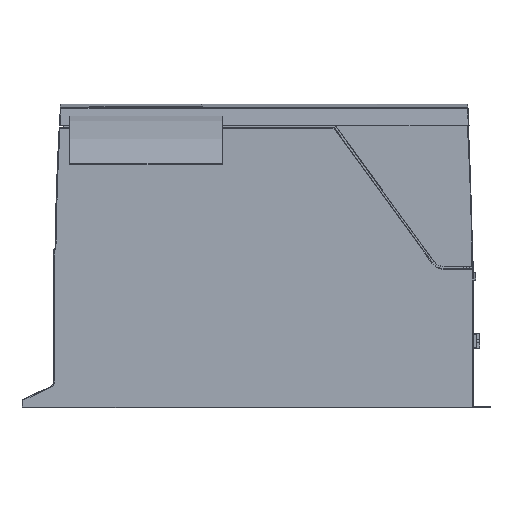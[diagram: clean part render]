
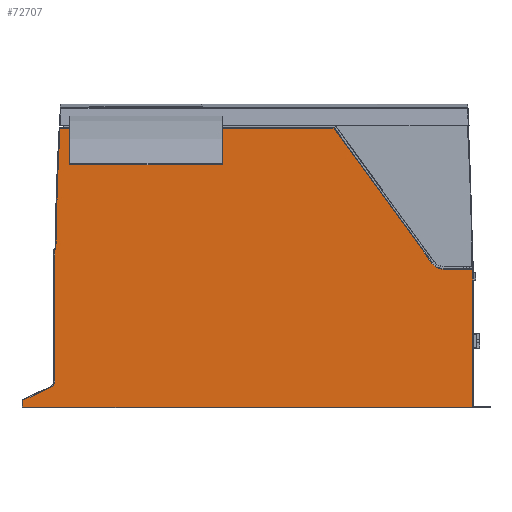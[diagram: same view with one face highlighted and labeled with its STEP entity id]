
A CAD part, left-side view. The second image highlights one B-rep face of the part: STEP entity #72707.
In plain terms, the highlighted planar face has unit normal (-1, 0, 0).
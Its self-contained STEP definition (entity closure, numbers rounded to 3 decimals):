
#4382=DIRECTION('',(0.,1.,0.));
#4383=VECTOR('',#4382,22.329);
#4384=CARTESIAN_POINT('',(-51.,-316.838,
-83.516));
#4385=LINE('',#4384,#4383);
#4427=DIRECTION('',(0.,-0.003,1.));
#4428=VECTOR('',#4427,2.571);
#4429=CARTESIAN_POINT('',(-51.,-316.83,
-86.087));
#4430=LINE('',#4429,#4428);
#4441=DIRECTION('',(0.,0.,-1.));
#4442=VECTOR('',#4441,5.825);
#4443=CARTESIAN_POINT('',(-51.,-316.83,
-86.087));
#4444=LINE('',#4443,#4442);
#4448=DIRECTION('',(0.,-0.906,0.423));
#4449=VECTOR('',#4448,23.98);
#4450=CARTESIAN_POINT('',(-51.,36.843,-186.519));
#4451=LINE('',#4450,#4449);
#4455=CARTESIAN_POINT('',(-51.,17.5,-171.257));
#4456=DIRECTION('',(-1.,0.,0.));
#4457=DIRECTION('',(0.,-0.423,-0.906));
#4458=AXIS2_PLACEMENT_3D('',#4455,#4456,#4457);
#4463=DIRECTION('',(0.,-0.707,0.707));
#4464=VECTOR('',#4463,1.003);
#4465=CARTESIAN_POINT('',(-51.,11.843,-68.272));
#4466=LINE('',#4465,#4464);
#4470=CARTESIAN_POINT('',(-51.,-2188.322,-95.));
#4471=DIRECTION('',(1.,0.,0.));
#4472=DIRECTION('',(0.,1.,0.013));
#4473=AXIS2_PLACEMENT_3D('',#4470,#4471,#4472);
#4478=DIRECTION('',(0.,-0.588,-0.809));
#4479=VECTOR('',#4478,130.906);
#4480=CARTESIAN_POINT('',(-51.,-207.834,27.343));
#4481=LINE('',#4480,#4479);
#4485=CARTESIAN_POINT('',(-51.,-294.5,-71.5));
#4486=DIRECTION('',(-1.,0.,0.));
#4487=DIRECTION('',(0.,0.809,-0.588));
#4488=AXIS2_PLACEMENT_3D('',#4485,#4486,#4487);
#4979=DIRECTION('',(0.,0.,1.));
#4980=VECTOR('',#4979,99.93);
#4981=CARTESIAN_POINT('',(-51.,-316.834,
-191.843));
#4982=LINE('',#4981,#4980);
#5032=DIRECTION('',(0.,-1.,0.));
#5033=VECTOR('',#5032,353.676);
#5034=CARTESIAN_POINT('',(-51.,36.843,-191.843));
#5035=LINE('',#5034,#5033);
#16452=CARTESIAN_POINT('',(-51.,10.841,
-66.869));
#16453=CARTESIAN_POINT('',(-51.,10.842,
-66.957));
#16454=CARTESIAN_POINT('',(-51.,10.866,
-67.126));
#16455=CARTESIAN_POINT('',(-51.,10.968,
-67.367));
#16456=CARTESIAN_POINT('',(-51.,11.072,
-67.501));
#16457=CARTESIAN_POINT('',(-51.,11.133,
-67.563));
#16478=CARTESIAN_POINT('',(-51.,10.841,
-66.869));
#16517=DIRECTION('',(0.,1.,0.));
#16518=VECTOR('',#16517,215.45);
#16519=CARTESIAN_POINT('',(-51.,-207.834,27.343));
#16520=LINE('',#16519,#16518);
#16562=DIRECTION('',(0.,0.,-1.));
#16563=VECTOR('',#16562,102.985);
#16564=CARTESIAN_POINT('',(-51.,11.843,-68.272));
#16565=LINE('',#16564,#16563);
#16663=DIRECTION('',(0.,0.,-1.));
#16664=VECTOR('',#16663,5.324);
#16665=CARTESIAN_POINT('',(-51.,36.843,-186.519));
#16666=LINE('',#16665,#16664);
#64575=VERTEX_POINT('',#16478);
#64576=VERTEX_POINT('',#16457);
#64577=CARTESIAN_POINT('',(-51.,7.615,27.343));
#64578=VERTEX_POINT('',#64577);
#64579=CARTESIAN_POINT('',(-51.,-207.834,27.343));
#64580=VERTEX_POINT('',#64579);
#64585=CARTESIAN_POINT('',(-51.,-284.779,-78.563));
#64586=VERTEX_POINT('',#64585);
#67322=CARTESIAN_POINT('',(-51.,-316.843,-191.843));
#67323=VERTEX_POINT('',#67322);
#67324=CARTESIAN_POINT('',(-51.,36.843,-191.843));
#67325=VERTEX_POINT('',#67324);
#67328=CARTESIAN_POINT('',(-51.,36.843,-186.519));
#67329=VERTEX_POINT('',#67328);
#67344=CARTESIAN_POINT('',(-51.,15.109,-176.384));
#67345=VERTEX_POINT('',#67344);
#67346=CARTESIAN_POINT('',(-51.,11.843,-171.257));
#67347=VERTEX_POINT('',#67346);
#67348=CARTESIAN_POINT('',(-51.,11.843,-68.272));
#67349=VERTEX_POINT('',#67348);
#67350=CARTESIAN_POINT('',(-51.,-316.83,
-86.087));
#67351=CARTESIAN_POINT('',(-51.,-316.827,
-91.913));
#67352=VERTEX_POINT('',#67350);
#67353=VERTEX_POINT('',#67351);
#67354=CARTESIAN_POINT('',(-51.,-294.527,-83.516));
#67355=VERTEX_POINT('',#67354);
#67356=CARTESIAN_POINT('',(-51.,-316.838,
-83.516));
#67357=VERTEX_POINT('',#67356);
#72674=CARTESIAN_POINT('',(-51.,12.5,-191.));
#72675=DIRECTION('',(-1.,0.,0.));
#72676=DIRECTION('',(0.,0.,1.));
#72677=AXIS2_PLACEMENT_3D('',#72674,#72675,#72676);
#72678=PLANE('',#72677);
#72680=ORIENTED_EDGE('',*,*,#72679,.T.);
#72682=ORIENTED_EDGE('',*,*,#72681,.F.);
#72684=ORIENTED_EDGE('',*,*,#72683,.F.);
#72686=ORIENTED_EDGE('',*,*,#72685,.F.);
#72688=ORIENTED_EDGE('',*,*,#72687,.T.);
#72690=ORIENTED_EDGE('',*,*,#72689,.T.);
#72692=ORIENTED_EDGE('',*,*,#72691,.F.);
#72694=ORIENTED_EDGE('',*,*,#72693,.T.);
#72696=ORIENTED_EDGE('',*,*,#72695,.F.);
#72698=ORIENTED_EDGE('',*,*,#72697,.T.);
#72700=ORIENTED_EDGE('',*,*,#72699,.F.);
#72701=ORIENTED_EDGE('',*,*,#72495,.T.);
#72702=ORIENTED_EDGE('',*,*,#72557,.T.);
#72703=ORIENTED_EDGE('',*,*,#72579,.F.);
#72704=ORIENTED_EDGE('',*,*,#72657,.F.);
#72705=EDGE_LOOP('',(#72680,#72682,#72684,#72686,#72688,#72690,#72692,#72694,
#72696,#72698,#72700,#72701,#72702,#72703,#72704));
#72706=FACE_OUTER_BOUND('',#72705,.F.);
#4459=CIRCLE('',#4458,5.657);
#4474=CIRCLE('',#4473,2199.343);
#4489=CIRCLE('',#4488,12.016);
#16458=B_SPLINE_CURVE_WITH_KNOTS('',3,(#16452,#16453,#16454,#16455,#16456,
#16457),.UNSPECIFIED.,.F.,.F.,(4,1,1,4),(0.,0.333,
0.667,1.),.UNSPECIFIED.);
#72495=EDGE_CURVE('',#64580,#64586,#4481,.T.);
#72557=EDGE_CURVE('',#64586,#67355,#4489,.T.);
#72579=EDGE_CURVE('',#67357,#67355,#4385,.T.);
#72657=EDGE_CURVE('',#67352,#67357,#4430,.T.);
#72679=EDGE_CURVE('',#67352,#67353,#4444,.T.);
#72681=EDGE_CURVE('',#67323,#67353,#4982,.T.);
#72683=EDGE_CURVE('',#67325,#67323,#5035,.T.);
#72685=EDGE_CURVE('',#67329,#67325,#16666,.T.);
#72687=EDGE_CURVE('',#67329,#67345,#4451,.T.);
#72689=EDGE_CURVE('',#67345,#67347,#4459,.T.);
#72691=EDGE_CURVE('',#67349,#67347,#16565,.T.);
#72693=EDGE_CURVE('',#67349,#64576,#4466,.T.);
#72695=EDGE_CURVE('',#64575,#64576,#16458,.T.);
#72697=EDGE_CURVE('',#64575,#64578,#4474,.T.);
#72699=EDGE_CURVE('',#64580,#64578,#16520,.T.);
#72707=ADVANCED_FACE('',(#72706),#72678,.T.);
